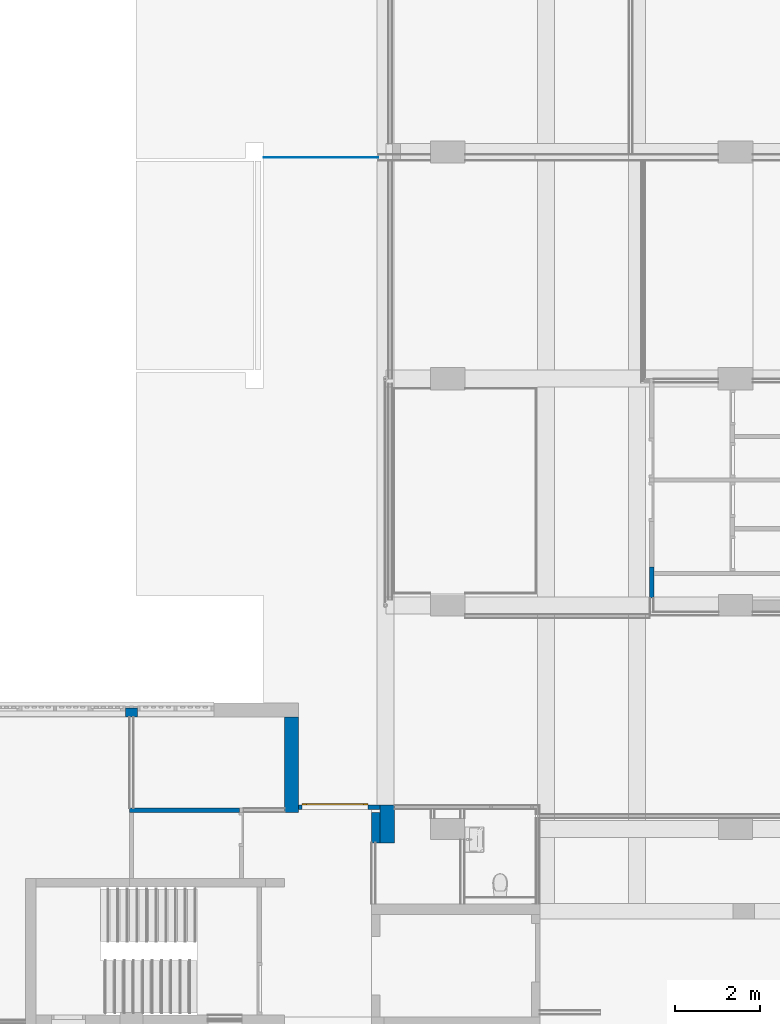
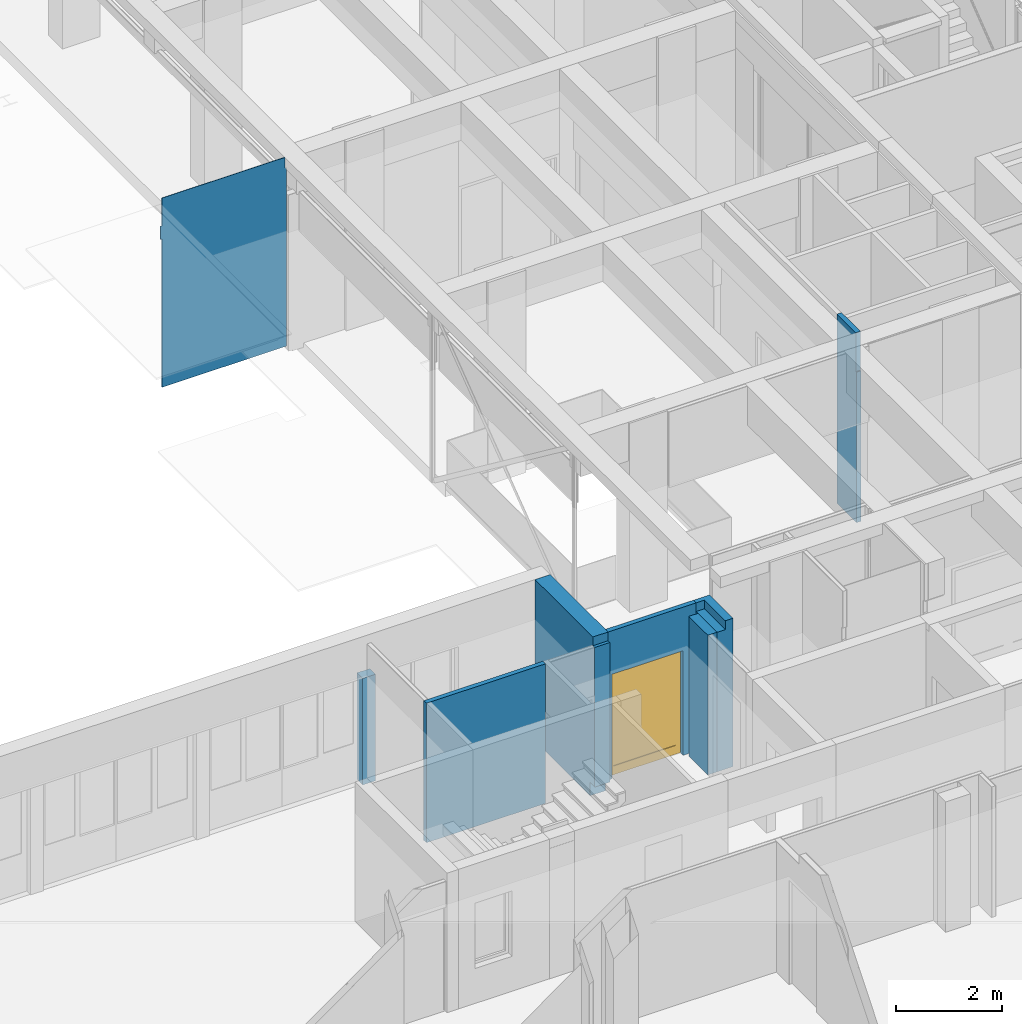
# One storey, part 58 of 117: 8 walls, 1 door, 1 opening.
"""IFC2X3 building model written with IfcOpenShell, lengths in millimetres."""

from ifc_helpers import new_model, entity, si_unit, converted_unit, derived_unit, money_unit, direction, frame, origin_with_axes, place, context, subcontext, project, spatial, open_shell, faceted_brep, surface_model, material, type_object, element, fill, save


model = new_model("IFC2X3")

# Units and contexts
model_context = context("Model", 3, precision=0.01, world=origin_with_axes(), true_north=direction((0.0, 1.0)))
body_context = subcontext(model_context, "Body", "Model", "MODEL_VIEW")
ifc_project = project(units=[si_unit("LENGTHUNIT", "METRE", prefix="MILLI"), si_unit("AREAUNIT", "SQUARE_METRE"), si_unit("VOLUMEUNIT", "CUBIC_METRE"), converted_unit("PLANEANGLEUNIT", "DEGREE", entity("IfcPlaneAngleMeasure", 0.0174532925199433), si_unit("PLANEANGLEUNIT", "RADIAN"), dimensions=[0, 0, 0, 0, 0, 0, 0]), money_unit("EUR"), converted_unit("TIMEUNIT", "Year", entity("IfcTimeMeasure", 31557600.0), si_unit("TIMEUNIT", "SECOND"), dimensions=[0, 0, 1, 0, 0, 0, 0]), si_unit("MASSUNIT", "GRAM", prefix="KILO"), si_unit("THERMODYNAMICTEMPERATUREUNIT", "DEGREE_CELSIUS"), si_unit("LUMINOUSINTENSITYUNIT", "LUMEN"), si_unit("ENERGYUNIT", "JOULE", prefix="MEGA"), derived_unit("THERMALCONDUCTANCEUNIT", [(si_unit("POWERUNIT", "WATT"), 1), (si_unit("LENGTHUNIT", "METRE"), -1), (si_unit("THERMODYNAMICTEMPERATUREUNIT", "KELVIN"), -1)]), derived_unit("SPECIFICHEATCAPACITYUNIT", [(si_unit("ENERGYUNIT", "JOULE"), 1), (si_unit("MASSUNIT", "GRAM", prefix="KILO"), -1), (si_unit("THERMODYNAMICTEMPERATUREUNIT", "KELVIN"), -1)]), derived_unit("MASSDENSITYUNIT", [(si_unit("MASSUNIT", "GRAM", prefix="KILO"), 1), (si_unit("VOLUMEUNIT", "CUBIC_METRE"), -1)])], contexts=[model_context])

# Site, building, storey
site_placement = place(None, origin_with_axes())
site = spatial("IfcSite", under=ifc_project, at=site_placement, Name="Site", CompositionType="ELEMENT")
building_placement = place(site_placement, origin_with_axes())
building = spatial("IfcBuilding", under=site, at=building_placement, Name="Naam gebouw", CompositionType="ELEMENT")
storey_placement = place(building_placement, frame((0.0, 0.0, 4150.0), z_axis=(0.0, 0.0, 1.0), x_axis=(1.0, 0.0, 0.0)))
storey = spatial("IfcBuildingStorey", under=building, at=storey_placement, Name="1e verdieping N", CompositionType="ELEMENT", Elevation=4150.0)

# Wall, opening, door
ifc_material_1 = material(Name="ALG - CONSTRUCTIEF")
wall_type_1 = type_object("IfcWallType", Name="ALG - CONSTRUCTIEF 100", PredefinedType="NOTDEFINED")
wall_1_placement = place(storey_placement, frame((20240.99999999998, 17874.75122651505, 0.0), z_axis=(0.0, 0.0, 1.0), x_axis=(-1.0, 0.0, 0.0)))
wall_1 = element("IfcWall", 1, at=wall_1_placement, inside=storey, type_object=wall_type_1, material=ifc_material_1, Name="_Wand-x", context=body_context, shape_type="Brep", body=[
    faceted_brep([(1828.000856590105, -50.00000000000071, 2400.0), (1828.000856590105, -50.00000000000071, 0.0), (1910.999933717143, -50.00000000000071, 0.0), (1910.999933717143, -50.00000000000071, 3400.0), (0.0, -50.00000000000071, 3400.0), (0.0, -50.00000000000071, 0.0), (283.0008565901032, -50.00000000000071, 0.0), (283.0008565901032, -50.00000000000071, 2400.0), (1828.000856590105, 50.00000000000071, 2400.0), (1828.000856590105, 50.00000000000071, 0.0), (1910.999930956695, 50.00000000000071, 0.0), (1910.999930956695, 50.00000000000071, 3400.0), (0.0, 50.00000000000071, 3400.0), (0.0, 50.00000000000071, 0.0), (283.0008565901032, 50.00000000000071, 0.0), (283.0008565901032, 50.00000000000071, 2400.0)], [[[0, 1, 2, 3, 4, 5, 6, 7]], [[1, 0, 8, 9]], [[1, 9, 10, 2]], [[10, 11, 3, 2]], [[11, 12, 4, 3]], [[13, 5, 4, 12]], [[14, 6, 5, 13]], [[7, 6, 14, 15]], [[0, 7, 15, 8]], [[15, 14, 13, 12, 11, 10, 9, 8]]]),
])
opening_placement = place(wall_1_placement, frame((1055.500856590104, 0.0, 0.0), z_axis=(0.0, 0.0, 1.0), x_axis=(1.0, 0.0, 0.0)))
opening = element("IfcOpeningElement", 2, at=opening_placement, cuts=wall_1, Name="_", context=body_context, shape_type="Brep", body=[
    faceted_brep([(772.5000000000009, 51.00000000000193, 2400.0), (772.5000000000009, 51.00000000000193, 0.0), (-772.5000000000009, 51.00000000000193, 0.0), (-772.5000000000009, 51.00000000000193, 2400.0), (772.5000000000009, -51.00000000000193, 2400.0), (772.5000000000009, -51.00000000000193, 0.0), (-772.5000000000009, -51.00000000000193, 0.0), (-772.5000000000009, -51.00000000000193, 2400.0)], [[[0, 1, 2, 3]], [[4, 5, 1, 0]], [[5, 6, 2, 1]], [[6, 7, 3, 2]], [[7, 4, 0, 3]], [[6, 5, 4, 7]]]),
])
door_style = type_object("IfcDoorStyle", Name="DS1 voor wand 27", ConstructionType="NOTDEFINED", OperationType="SLIDING_TO_RIGHT", ParameterTakesPrecedence=False, Sizeable=False)
door_placement = place(opening_placement, frame((772.5000000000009, 0.0, 0.0), z_axis=(0.0, 0.0, 1.0), x_axis=(-1.0, 0.0, 0.0)))
door = element("IfcDoor", 3, at=door_placement, inside=storey, type_object=door_style, Name="_", ObjectType="DOOR", OverallHeight=2400.0, OverallWidth=1545.0, context=body_context, shape_type="SurfaceModel", body=[
    faceted_brep([(1545.000000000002, 94.99999999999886, 200.0000000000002), (1545.000000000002, 54.99999999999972, 200.0000000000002), (1445.0, 54.99999999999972, 200.0000000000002), (1445.0, 94.99999999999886, 200.0000000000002), (1545.000000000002, 94.99999999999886, 2300.0), (1545.000000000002, 54.99999999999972, 2300.0), (1445.0, 54.99999999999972, 2300.0), (1445.0, 94.99999999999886, 2300.0)], [[[0, 1, 2, 3]], [[4, 5, 1, 0]], [[1, 5, 6, 2]], [[3, 2, 6, 7]], [[0, 3, 7, 4]], [[7, 6, 5, 4]]]),
    faceted_brep([(0.0, 95.00000000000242, 200.0000000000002), (0.0, 54.99999999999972, 200.0000000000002), (0.0, 54.99999999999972, 2300.0), (0.0, 94.99999999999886, 2300.0), (100.0000000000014, 95.00000000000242, 200.0000000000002), (100.0000000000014, 54.99999999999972, 200.0000000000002), (100.0000000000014, 54.99999999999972, 2300.0), (100.0000000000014, 94.99999999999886, 2300.0)], [[[0, 1, 2, 3]], [[4, 5, 1, 0]], [[1, 5, 6, 2]], [[3, 2, 6, 7]], [[0, 3, 7, 4]], [[7, 6, 5, 4]]]),
    faceted_brep([(1545.000000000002, 94.99999999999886, 0.0), (1545.000000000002, 54.99999999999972, 0.0), (0.0, 54.99999999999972, 0.0), (0.0, 95.00000000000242, 0.0), (1545.000000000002, 94.99999999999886, 200.0000000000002), (1545.000000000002, 54.99999999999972, 200.0000000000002), (1445.0, 54.99999999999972, 200.0000000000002), (100.0000000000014, 54.99999999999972, 200.0000000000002), (0.0, 54.99999999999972, 200.0000000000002), (0.0, 95.00000000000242, 200.0000000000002), (100.0000000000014, 95.00000000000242, 200.0000000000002), (1445.0, 94.99999999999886, 200.0000000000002)], [[[0, 1, 2, 3]], [[4, 5, 1, 0]], [[1, 5, 6, 7, 8, 2]], [[3, 2, 8, 9]], [[0, 3, 9, 10, 11, 4]], [[11, 6, 5, 4]], [[10, 7, 6, 11]], [[9, 8, 7, 10]]]),
    faceted_brep([(1545.000000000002, 94.99999999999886, 2400.0), (1545.000000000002, 54.99999999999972, 2400.0), (1545.000000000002, 54.99999999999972, 2300.0), (1545.000000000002, 94.99999999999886, 2300.0), (0.0, 94.99999999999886, 2400.0), (0.0, 54.99999999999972, 2400.0), (0.0, 54.99999999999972, 2300.0), (100.0000000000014, 54.99999999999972, 2300.0), (1445.0, 54.99999999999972, 2300.0), (1445.0, 94.99999999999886, 2300.0), (100.0000000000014, 94.99999999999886, 2300.0), (0.0, 94.99999999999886, 2300.0)], [[[0, 1, 2, 3]], [[4, 5, 1, 0]], [[1, 5, 6, 7, 8, 2]], [[3, 2, 8, 9]], [[0, 3, 9, 10, 11, 4]], [[11, 6, 5, 4]], [[10, 7, 6, 11]], [[9, 8, 7, 10]]]),
    surface_model("IfcShellBasedSurfaceModel", [(1445.0, 80.99999999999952, 200.0000000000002), (100.0000000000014, 80.99999999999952, 200.0000000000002), (100.0000000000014, 80.99999999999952, 2300.0), (1445.0, 80.99999999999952, 2300.0)], [open_shell([[[0, 1, 2, 3]]])]),
    surface_model("IfcShellBasedSurfaceModel", [(1445.0, 68.99999999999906, 200.0000000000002), (1445.0, 68.99999999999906, 2300.0), (100.0000000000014, 68.99999999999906, 2300.0), (100.0000000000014, 69.00000000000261, 200.0000000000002)], [open_shell([[[0, 1, 2, 3]]])]),
])
fill(opening, door)

# Walls
wall_2_placement = place(storey_placement, frame((26636.0, 23325.91242510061, -99.99999999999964), z_axis=(0.0, 0.0, 1.0), x_axis=(0.0, -1.0, 0.0)))
element("IfcWall", 4, at=wall_2_placement, inside=storey, type_object=wall_type_1, material=ifc_material_1, Name="_Wand-x", context=body_context, shape_type="Brep", body=[
    faceted_brep([(-200.0000000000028, -50.00000000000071, 4439.999999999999), (505.8146167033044, -50.00000000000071, 4439.999999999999), (505.8146167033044, 50.00000000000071, 4439.999999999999), (-200.0000000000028, 50.00000000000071, 4439.999999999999), (530.0000000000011, -50.00000000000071, 3549.999999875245), (505.8146167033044, -50.00000000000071, 3549.999999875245), (-200.0000000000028, -50.00000000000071, 99.99999999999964), (530.0000000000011, -50.00000000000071, 99.99999999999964), (505.8146167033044, 50.00000000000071, 3549.999999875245), (530.0000000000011, 50.00000000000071, 3549.999999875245), (530.0000000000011, 50.00000000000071, 99.99999999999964), (-200.0000000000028, 50.00000000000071, 99.99999999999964)], [[[0, 1, 2, 3]], [[4, 5, 1, 0, 6, 7]], [[5, 8, 2, 1]], [[2, 8, 9, 10, 11, 3]], [[0, 3, 11, 6]], [[4, 9, 8, 5]], [[10, 7, 6, 11]], [[10, 9, 4, 7]]]),
])
wall_3_placement = place(storey_placement, frame((16937.79224075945, 17806.42315075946, -99.99999999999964), z_axis=(0.0, 0.0, 1.0), x_axis=(-1.0, 0.0, 0.0)))
element("IfcWall", 5, at=wall_3_placement, inside=storey, type_object=wall_type_1, material=ifc_material_1, Name="_Wand-x", context=body_context, shape_type="Brep", body=[
    faceted_brep([(0.0, 50.00000000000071, 3300.0), (0.0, 50.00000000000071, 99.99999999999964), (0.0, -50.00000000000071, 99.99999999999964), (0.0, -50.00000000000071, 3300.0), (2587.792240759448, 50.00000000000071, 3300.0), (2587.792240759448, 50.00000000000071, 99.99999999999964), (2587.792240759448, -50.00000000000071, 99.99999999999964), (2587.792240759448, -50.00000000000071, 3300.0)], [[[0, 1, 2, 3]], [[4, 5, 1, 0]], [[5, 6, 2, 1]], [[3, 2, 6, 7]], [[4, 0, 3, 7]], [[7, 6, 5, 4]]]),
])
wall_type_2 = type_object("IfcWallType", Name="ALG - CONSTRUCTIEF 200", PredefinedType="NOTDEFINED")
wall_4_placement = place(storey_placement, frame((20040.99999999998, 17756.42315075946, -99.99999999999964), z_axis=(0.0, 0.0, 1.0), x_axis=(0.0, -1.0, 0.0)))
element("IfcWall", 6, at=wall_4_placement, inside=storey, type_object=wall_type_2, material=ifc_material_1, Name="_Wand-x", context=body_context, shape_type="Brep", body=[
    faceted_brep([(716.968841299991, 199.9999999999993, 3300.0), (716.968841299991, 199.9999999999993, 99.99999999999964), (0.0, 199.9999999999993, 99.99999999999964), (0.0, 199.9999999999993, 3300.0), (716.968841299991, 0.0, 3300.0), (716.968841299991, 0.0, 99.99999999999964), (0.0, 0.0, 99.99999999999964), (0.0, 0.0, 3300.0)], [[[0, 1, 2, 3]], [[4, 5, 1, 0]], [[5, 6, 2, 1]], [[3, 2, 6, 7]], [[4, 0, 3, 7]], [[7, 6, 5, 4]]]),
])
wall_type_3 = type_object("IfcWallType", Name="ALG - CONSTRUCTIEF 330", PredefinedType="NOTDEFINED")
wall_5_placement = place(storey_placement, frame((18000.00000910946, 19995.91321708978, -300.0000000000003), z_axis=(0.0, 0.0, 1.0), x_axis=(2.760449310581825e-08, -0.9999999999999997, 0.0)))
element("IfcWall", 7, at=wall_5_placement, inside=storey, type_object=wall_type_3, material=ifc_material_1, Name="_Wand-x", context=body_context, shape_type="Brep", body=[
    faceted_brep([(-0.00109961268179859, 329.9999999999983, 130.0000000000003), (2022.533765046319, 329.9999441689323, 130.0000000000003), (2022.533765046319, 329.9999441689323, 300.0000000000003), (-0.001696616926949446, 329.9999999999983, 300.0000000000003), (-0.001696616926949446, 329.9999999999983, 3700.0), (2171.161999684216, 329.9999400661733, 3700.0), (2171.161999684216, 329.9999400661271, 3500.0), (2239.490112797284, 329.9999381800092, 3500.0), (2239.490112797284, 329.9999381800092, 300.0000000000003), (2071.161999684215, 329.999942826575, 300.0000000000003), (2071.161999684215, 329.9999428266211, 0.0), (9.109481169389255e-06, 329.9999999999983, 0.0), (2022.53376473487, 318.7173263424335, 130.0000000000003), (8.79802897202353e-06, 318.7173821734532, 130.0000000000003), (2022.53376473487, 318.7173263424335, 300.0000000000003), (8.79802897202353e-06, 318.7173821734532, 300.0000000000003), (0.0, 0.0, 0.0), (0.0, 0.0, 200.0000000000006), (0.0, 0.0, 3700.0), (2171.161990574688, -0.001782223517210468, 3700.0), (2171.161990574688, -0.001782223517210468, 3500.0), (2239.490103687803, -6.181998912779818e-05, 3500.0), (2239.490103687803, -6.181998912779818e-05, 300.0000000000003), (2071.161990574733, -6.62916512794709e-05, 300.0000000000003), (2071.161990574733, -6.62916512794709e-05, 0.0)], [[[0, 1, 2, 3, 4, 5, 6, 7, 8, 9, 10, 11]], [[12, 1, 0, 13]], [[14, 2, 1, 12]], [[14, 15, 3, 2]], [[15, 13, 0, 11, 16, 17, 18, 4, 3]], [[18, 19, 5, 4]], [[20, 6, 5, 19]], [[21, 7, 6, 20]], [[21, 22, 8, 7]], [[23, 9, 8, 22]], [[24, 10, 9, 23]], [[11, 10, 24, 16]], [[12, 13, 15, 14]], [[24, 23, 22, 21, 20, 19, 18, 17, 16]]]),
])
wall_type_4 = type_object("IfcWallType", Name="ALG - CONSTRUCTIEF 350", PredefinedType="NOTDEFINED")
wall_6_placement = place(storey_placement, frame((20240.99999999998, 17924.75122651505, -99.99999999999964), z_axis=(0.0, 0.0, 1.0), x_axis=(0.0, -1.0, 0.0)))
element("IfcWall", 8, at=wall_6_placement, inside=storey, type_object=wall_type_4, material=ifc_material_1, Name="_Wand-x", context=body_context, shape_type="Brep", body=[
    faceted_brep([(100.0000000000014, 0.0, 3500.0), (100.0000000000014, 179.0000000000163, 3500.0), (885.2969170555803, 179.0000000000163, 3500.0), (885.2969170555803, 350.0000000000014, 3500.0), (0.0, 350.0000000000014, 3500.0), (0.0, 0.0, 3500.0), (100.0000000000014, 179.0000000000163, 3300.0), (100.0000000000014, 0.0, 3300.0), (885.2969170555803, 179.0000000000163, 3300.0), (885.2969170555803, 0.0, 3300.0), (885.2969170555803, 0.0, 99.99999999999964), (885.2969170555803, 350.0000000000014, 99.99999999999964), (0.0, 350.0000000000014, 99.99999999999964), (0.0, 295.0000000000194, 99.99999999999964), (0.0, 0.0, 99.99999999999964)], [[[0, 1, 2, 3, 4, 5]], [[6, 1, 0, 7]], [[8, 2, 1, 6]], [[2, 8, 9, 10, 11, 3]], [[3, 11, 12, 4]], [[12, 13, 14, 5, 4]], [[9, 7, 0, 5, 14, 10]], [[7, 9, 8, 6]], [[14, 13, 12, 11, 10]]]),
])
ifc_material_2 = material(Name="ALG - GEVEL")
wall_type_5 = type_object("IfcWallType", Name="ALG - GEVEL 260", PredefinedType="NOTDEFINED")
wall_7_placement = place(storey_placement, frame((14262.5, 20255.89452790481, 0.0), z_axis=(0.0, 0.0, 1.0), x_axis=(1.0, 0.0, 0.0)))
element("IfcWall", 9, at=wall_7_placement, inside=storey, type_object=wall_type_5, material=ifc_material_2, Name="_Wand-x", context=body_context, shape_type="Brep", body=[
    faceted_brep([(275.0000000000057, -43.99999999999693, 2440.00000000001), (275.0000000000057, -43.99999999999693, 0.0), (0.0, -43.99999999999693, 0.0), (0.0, -43.99999999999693, 2440.00000000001), (275.0000000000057, -260.0000000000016, 0.0), (275.0000000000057, -260.0000000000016, 2440.0), (0.0, -260.0000000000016, 0.0), (0.0, -260.0000000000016, 2440.0)], [[[0, 1, 2, 3]], [[4, 1, 0, 5]], [[2, 1, 4, 6]], [[7, 3, 2, 6]], [[0, 3, 7, 5]], [[5, 7, 6, 4]]]),
])
ifc_material_3 = material(Name="Glas")
wall_type_6 = type_object("IfcWallType", Name="Glas 10", PredefinedType="NOTDEFINED")
wall_8_placement = place(storey_placement, frame((20206.00000000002, 33160.9124251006, -99.99999999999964), z_axis=(0.0, 0.0, 1.0), x_axis=(-1.0, 0.0, 0.0)))
element("IfcWall", 10, at=wall_8_placement, inside=storey, type_object=wall_type_6, material=ifc_material_3, Name="_Wand-x", context=body_context, shape_type="Brep", body=[
    faceted_brep([(35.00000000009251, -5.000000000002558, 4439.999999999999), (35.00000000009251, -5.000000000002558, 4189.999999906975), (0.0, -5.000000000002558, 4189.999999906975), (0.0, -5.000000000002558, 99.99999999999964), (2699.999999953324, -5.000000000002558, 99.99999999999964), (2699.999999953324, -5.000000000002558, 3499.999999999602), (2732.499999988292, -5.000000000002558, 3499.999999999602), (2732.499999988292, -5.000000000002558, 3799.999999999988), (2699.999999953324, -5.000000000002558, 3799.999999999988), (2699.999999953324, -5.000000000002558, 4440.000106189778), (35.00000000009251, 5.000000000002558, 4439.999999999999), (35.00000000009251, 5.000000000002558, 4189.999999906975), (0.0, 5.000000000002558, 4189.999999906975), (0.0, 5.000000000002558, 99.99999999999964), (2699.999999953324, 5.000000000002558, 99.99999999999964), (2699.999999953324, 5.000000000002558, 3499.999999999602), (2732.499999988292, 5.000000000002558, 3499.999999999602), (2732.499999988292, 5.000000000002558, 3799.999999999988), (2699.999999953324, 5.000000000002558, 3799.999999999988), (2699.999999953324, 5.000000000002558, 4440.000106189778)], [[[0, 1, 2, 3, 4, 5, 6, 7, 8, 9]], [[1, 0, 10, 11]], [[12, 2, 1, 11]], [[2, 12, 13, 3]], [[14, 4, 3, 13]], [[5, 4, 14, 15]], [[16, 6, 5, 15]], [[17, 7, 6, 16]], [[7, 17, 18, 8]], [[8, 18, 19, 9]], [[10, 0, 9, 19]], [[11, 10, 19, 18, 17, 16, 15, 14, 13, 12]]]),
])

save(model, "model.ifc")
